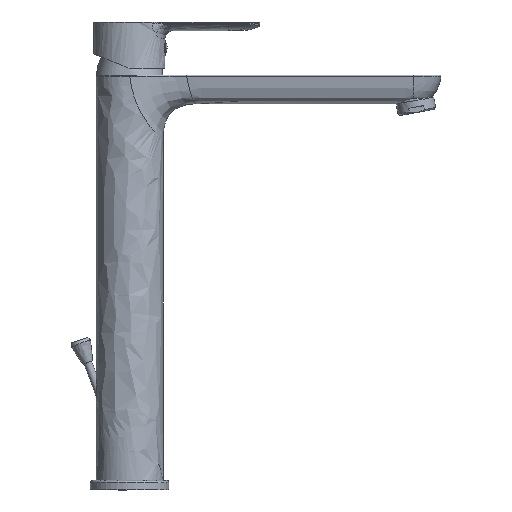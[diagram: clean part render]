
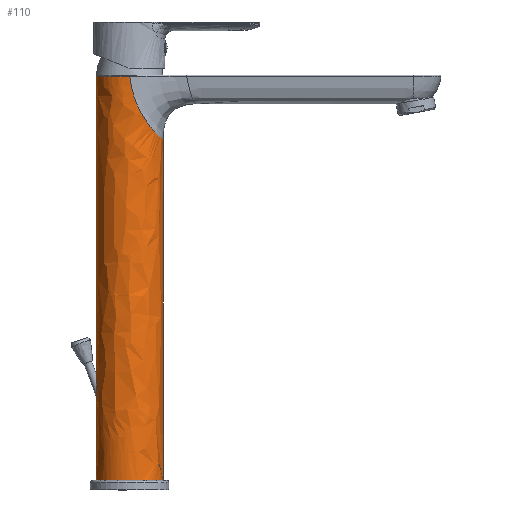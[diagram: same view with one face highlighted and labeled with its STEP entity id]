
A CAD part, left-side view. The second image highlights one B-rep face of the part: STEP entity #110.
In plain terms, the highlighted free-form (B-spline) face has degree [1, 2] with [2, 9] control points.
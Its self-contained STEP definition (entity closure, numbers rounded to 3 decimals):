
#110=ADVANCED_FACE('',(#250),#2005,.T.);
#250=FACE_OUTER_BOUND('',#393,.T.);
#393=EDGE_LOOP('',(#639,#640,#641,#642,#643,#644,#645));
#639=ORIENTED_EDGE('',*,*,#1190,.F.);
#640=ORIENTED_EDGE('',*,*,#1195,.T.);
#641=ORIENTED_EDGE('',*,*,#1191,.F.);
#642=ORIENTED_EDGE('',*,*,#1188,.F.);
#643=ORIENTED_EDGE('',*,*,#1192,.T.);
#644=ORIENTED_EDGE('',*,*,#1186,.F.);
#645=ORIENTED_EDGE('',*,*,#1193,.F.);
#1186=EDGE_CURVE('',#1793,#1804,#1607,.T.);
#1188=EDGE_CURVE('',#1805,#1801,#1609,.T.);
#1190=EDGE_CURVE('',#1806,#1792,#1456,.T.);
#1191=EDGE_CURVE('',#1801,#1798,#1457,.T.);
#1192=EDGE_CURVE('',#1805,#1804,#1610,.T.);
#1193=EDGE_CURVE('',#1792,#1793,#1458,.T.);
#1195=EDGE_CURVE('',#1806,#1798,#1612,.T.);
#1456=B_SPLINE_CURVE_WITH_KNOTS('',3,(#5950,#5951,#5952,#5953),
 .UNSPECIFIED.,.F.,.F.,(4,4),(-185.653,0.),.UNSPECIFIED.);
#1457=B_SPLINE_CURVE_WITH_KNOTS('',3,(#5954,#5955,#5956,#5957,#5958,#5959,
#5960,#5961,#5962,#5963),.UNSPECIFIED.,.F.,.F.,(4,2,2,2,4),(-1.,-0.755,
-0.503,-0.253,0.),.UNSPECIFIED.);
#1458=B_SPLINE_CURVE_WITH_KNOTS('',3,(#5969,#5970,#5971,#5972,#5973,#5974,
#5975,#5976,#5977,#5978,#5979,#5980,#5981,#5982,#5983,#5984,#5985,#5986),
 .UNSPECIFIED.,.F.,.F.,(4,2,2,2,2,2,2,2,4),(0.,0.054,0.111,
0.239,0.497,0.756,0.884,
0.943,1.),.UNSPECIFIED.);
#1607=(
BOUNDED_CURVE()
B_SPLINE_CURVE(1,(#5931,#5932),.UNSPECIFIED.,.F.,.F.)
B_SPLINE_CURVE_WITH_KNOTS((2,2),(-48.756,0.),.UNSPECIFIED.)
CURVE()
GEOMETRIC_REPRESENTATION_ITEM()
RATIONAL_B_SPLINE_CURVE((1.,1.))
REPRESENTATION_ITEM('')
);
#1609=(
BOUNDED_CURVE()
B_SPLINE_CURVE(1,(#5938,#5939),.UNSPECIFIED.,.F.,.F.)
B_SPLINE_CURVE_WITH_KNOTS((2,2),(0.,214.485),.UNSPECIFIED.)
CURVE()
GEOMETRIC_REPRESENTATION_ITEM()
RATIONAL_B_SPLINE_CURVE((1.,1.))
REPRESENTATION_ITEM('')
);
#1610=(
BOUNDED_CURVE()
B_SPLINE_CURVE(2,(#5964,#5965,#5966,#5967,#5968),.UNSPECIFIED.,.F.,.F.)
B_SPLINE_CURVE_WITH_KNOTS((3,2,3),(-65.973,-32.987,
0.),.UNSPECIFIED.)
CURVE()
GEOMETRIC_REPRESENTATION_ITEM()
RATIONAL_B_SPLINE_CURVE((1.,0.707,1.,0.707,1.))
REPRESENTATION_ITEM('')
);
#1612=(
BOUNDED_CURVE()
B_SPLINE_CURVE(2,(#5992,#5993,#5994,#5995,#5996),.UNSPECIFIED.,.F.,.F.)
B_SPLINE_CURVE_WITH_KNOTS((3,2,3),(0.,16.52,33.039),
 .UNSPECIFIED.)
CURVE()
GEOMETRIC_REPRESENTATION_ITEM()
RATIONAL_B_SPLINE_CURVE((1.,0.924,1.,0.924,1.))
REPRESENTATION_ITEM('')
);
#1792=VERTEX_POINT('',#5824);
#1793=VERTEX_POINT('',#5825);
#1798=VERTEX_POINT('',#5830);
#1801=VERTEX_POINT('',#5833);
#1804=VERTEX_POINT('',#5836);
#1805=VERTEX_POINT('',#5837);
#1806=VERTEX_POINT('',#5838);
#2005=(
BOUNDED_SURFACE()
B_SPLINE_SURFACE(1,2,((#3802,#3803,#3804,#3805,#3806,#3807,#3808,#3809,
#3810),(#3811,#3812,#3813,#3814,#3815,#3816,#3817,#3818,#3819)),
 .UNSPECIFIED.,.F.,.F.,.F.)
B_SPLINE_SURFACE_WITH_KNOTS((2,2),(3,2,2,2,3),(0.,306.294),(0.,
32.987,65.973,98.96,131.947),
 .UNSPECIFIED.)
GEOMETRIC_REPRESENTATION_ITEM()
RATIONAL_B_SPLINE_SURFACE(((1.,0.707,1.,0.707,1.,
0.707,1.,0.707,1.),(1.,0.707,1.,0.707,
1.,0.707,1.,0.707,1.)))
REPRESENTATION_ITEM('')
SURFACE()
);
#3802=CARTESIAN_POINT('',(21.736,68.096,-169.396));
#3803=CARTESIAN_POINT('',(21.736,89.096,-169.396));
#3804=CARTESIAN_POINT('',(0.736,89.096,-169.396));
#3805=CARTESIAN_POINT('',(-20.264,89.096,-169.396));
#3806=CARTESIAN_POINT('',(-20.264,68.096,-169.396));
#3807=CARTESIAN_POINT('',(-20.264,47.096,-169.396));
#3808=CARTESIAN_POINT('',(0.736,47.096,-169.396));
#3809=CARTESIAN_POINT('',(21.736,47.096,-169.396));
#3810=CARTESIAN_POINT('',(21.736,68.096,-169.396));
#3811=CARTESIAN_POINT('',(21.736,68.096,136.898));
#3812=CARTESIAN_POINT('',(21.736,89.096,136.898));
#3813=CARTESIAN_POINT('',(0.736,89.096,136.898));
#3814=CARTESIAN_POINT('',(-20.264,89.096,136.898));
#3815=CARTESIAN_POINT('',(-20.264,68.096,136.898));
#3816=CARTESIAN_POINT('',(-20.264,47.096,136.898));
#3817=CARTESIAN_POINT('',(0.736,47.096,136.898));
#3818=CARTESIAN_POINT('',(21.736,47.096,136.898));
#3819=CARTESIAN_POINT('',(21.736,68.096,136.898));
#5824=CARTESIAN_POINT('',(0.736,89.096,-74.652));
#5825=CARTESIAN_POINT('',(0.736,89.096,-94.743));
#5830=CARTESIAN_POINT('',(-20.264,68.044,111.001));
#5833=CARTESIAN_POINT('',(0.736,47.096,70.986));
#5836=CARTESIAN_POINT('',(0.736,89.096,-143.499));
#5837=CARTESIAN_POINT('',(0.736,47.096,-143.499));
#5838=CARTESIAN_POINT('',(0.736,89.096,111.001));
#5931=CARTESIAN_POINT('',(0.736,89.096,-94.743));
#5932=CARTESIAN_POINT('',(0.736,89.096,-143.499));
#5938=CARTESIAN_POINT('',(0.736,47.096,-143.499));
#5939=CARTESIAN_POINT('',(0.736,47.096,70.986));
#5950=CARTESIAN_POINT('',(0.736,89.096,111.001));
#5951=CARTESIAN_POINT('',(0.736,89.096,49.117));
#5952=CARTESIAN_POINT('',(0.736,89.096,-12.768));
#5953=CARTESIAN_POINT('',(0.736,89.096,-74.652));
#5954=CARTESIAN_POINT('',(0.736,47.096,70.986));
#5955=CARTESIAN_POINT('',(-4.094,47.096,70.986));
#5956=CARTESIAN_POINT('',(-8.385,48.749,72.296));
#5957=CARTESIAN_POINT('',(-15.043,53.62,77.264));
#5958=CARTESIAN_POINT('',(-17.042,56.588,80.781));
#5959=CARTESIAN_POINT('',(-19.392,61.518,88.563));
#5960=CARTESIAN_POINT('',(-19.825,63.565,92.813));
#5961=CARTESIAN_POINT('',(-20.266,66.589,101.76));
#5962=CARTESIAN_POINT('',(-20.262,67.55,106.286));
#5963=CARTESIAN_POINT('',(-20.264,68.044,111.001));
#5964=CARTESIAN_POINT('',(0.736,47.096,-143.499));
#5965=CARTESIAN_POINT('',(-20.264,47.096,-143.499));
#5966=CARTESIAN_POINT('',(-20.264,68.096,-143.499));
#5967=CARTESIAN_POINT('',(-20.264,89.096,-143.499));
#5968=CARTESIAN_POINT('',(0.736,89.096,-143.499));
#5969=CARTESIAN_POINT('',(0.736,89.096,-74.652));
#5970=CARTESIAN_POINT('',(0.247,89.096,-74.652));
#5971=CARTESIAN_POINT('',(-0.111,89.079,-75.212));
#5972=CARTESIAN_POINT('',(-0.488,89.061,-75.906));
#5973=CARTESIAN_POINT('',(-0.63,89.052,-76.28));
#5974=CARTESIAN_POINT('',(-1.046,89.022,-77.531));
#5975=CARTESIAN_POINT('',(-1.237,89.003,-78.412));
#5976=CARTESIAN_POINT('',(-1.695,88.957,-81.116));
#5977=CARTESIAN_POINT('',(-1.834,88.938,-82.921));
#5978=CARTESIAN_POINT('',(-1.886,88.931,-86.583));
#5979=CARTESIAN_POINT('',(-1.796,88.945,-88.389));
#5980=CARTESIAN_POINT('',(-1.372,88.99,-91.104));
#5981=CARTESIAN_POINT('',(-1.187,89.01,-91.982));
#5982=CARTESIAN_POINT('',(-0.726,89.045,-93.237));
#5983=CARTESIAN_POINT('',(-0.562,89.057,-93.613));
#5984=CARTESIAN_POINT('',(-0.113,89.08,-94.312));
#5985=CARTESIAN_POINT('',(0.25,89.096,-94.743));
#5986=CARTESIAN_POINT('',(0.736,89.096,-94.743));
#5992=CARTESIAN_POINT('',(0.736,89.096,111.001));
#5993=CARTESIAN_POINT('',(-7.977,89.096,111.001));
#5994=CARTESIAN_POINT('',(-14.131,82.927,111.001));
#5995=CARTESIAN_POINT('',(-20.285,76.757,111.001));
#5996=CARTESIAN_POINT('',(-20.264,68.044,111.001));
